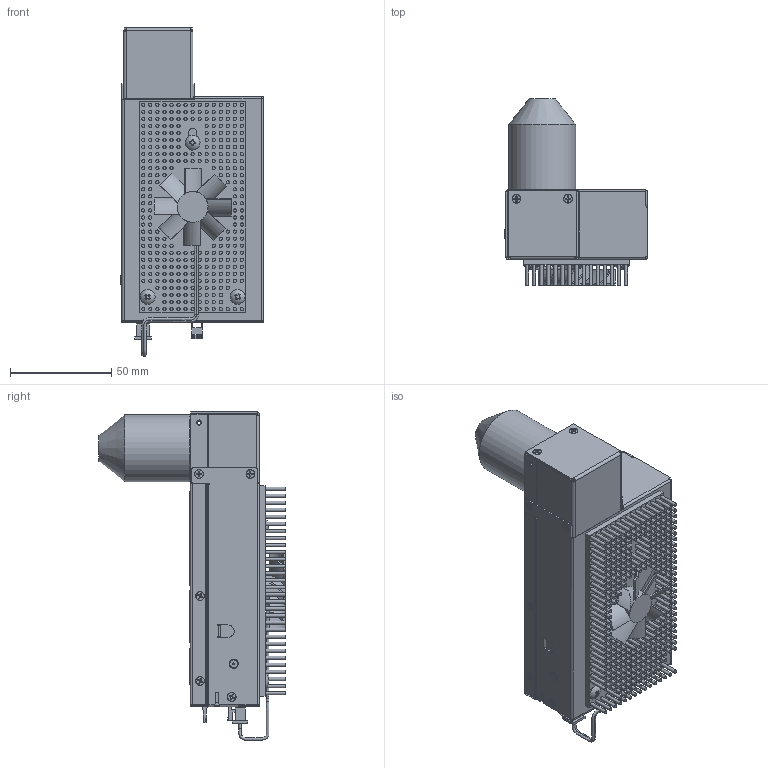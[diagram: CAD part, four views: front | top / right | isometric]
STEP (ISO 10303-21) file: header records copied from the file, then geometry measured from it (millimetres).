
FILE_DESCRIPTION (( 'STEP AP214' ), '1' );
FILE_NAME ('TUB00154-9I.STEP', '2024-01-11T19:17:30', ( '' ), ( '' ), 'SwSTEP 2.0', 'SolidWorks 2023', '' );
FILE_SCHEMA (( 'AUTOMOTIVE_DESIGN' ));
Length unit declared in the file: inch
Products named in the file (1): TUB00154-9I
Bounding box: 70.51 x 92.06 x 162.12 mm (x, y, z)
Surface area: 109933.8 mm2 (no closed solid volume)
Topology: 0 solids, 333 shells, 1754 faces, 11471 edges, 10305 vertices
Faces by surface type: plane 1256, cylinder 397, bspline 51, cone 45, sphere 3, torus 2
Full cylindrical faces by diameter (mm): 1.6 x314, 1.778 x2, 1.9 x1, 2.387 x3, 2.54 x2, 7.34 x2, 14.288 x1, 15.24 x1, 33.02 x1
Entity records: 165923 total; most frequent: CARTESIAN_POINT 64048, ORIENTED_EDGE 13244, DIRECTION 13155, EDGE_CURVE 11005, VERTEX_POINT 10204, VECTOR 7311, LINE 7311, EDGE_LOOP 3212
